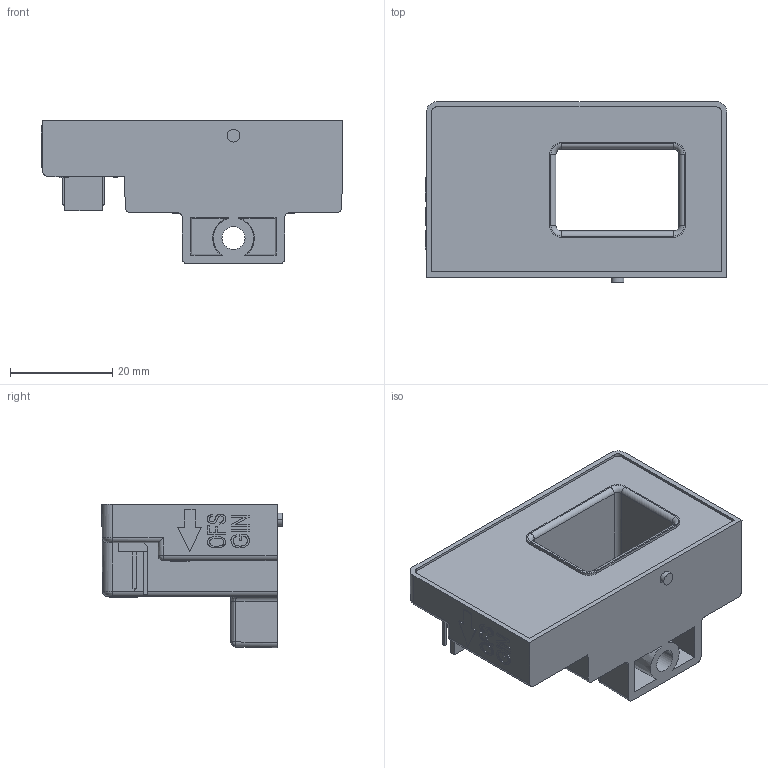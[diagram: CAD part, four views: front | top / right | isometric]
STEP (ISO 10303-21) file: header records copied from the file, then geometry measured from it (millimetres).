
FILE_DESCRIPTION(('Creo Elements/Direct Modeling STEP Export'),'2;1');
FILE_NAME('HAC 800-S Blackbox.stp','2014-06-03T16:08:12',(''),(''),'Creo Elements/Direct Modeling STEP processor for AP214 (Solid Model)','Creo Elements/Direct Modeling 17.0C 05-Feb-2011 (C) Parametric Technology GmbH','');
FILE_SCHEMA(('AUTOMOTIVE_DESIGN { 1 0 10303 214 1 1 1 1 }'));
Length unit declared in the file: millimetre
Products named in the file (1): HAC800-S_BBOX
Bounding box: 58.79 x 35.2 x 28 mm (x, y, z)
Volume: 24799.8 mm3; surface area: 9452.3 mm2
Topology: 1 solids, 2 shells, 406 faces, 1024 edges, 666 vertices
Faces by surface type: plane 298, extrusion 43, cylinder 41, bspline 17, torus 4, cone 2, sphere 1
Entity records: 15499 total; most frequent: CARTESIAN_POINT 5674, ORIENTED_EDGE 2046, DIRECTION 1678, EDGE_CURVE 1023, VECTOR 852, LINE 809, VERTEX_POINT 666, EDGE_LOOP 455
